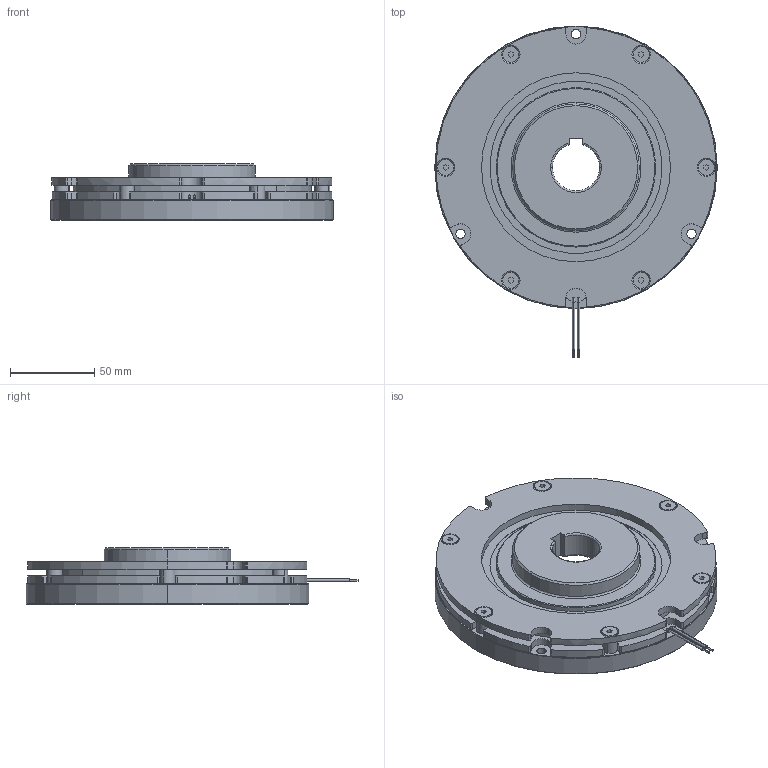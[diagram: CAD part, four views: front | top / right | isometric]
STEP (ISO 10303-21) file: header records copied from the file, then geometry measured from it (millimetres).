
FILE_DESCRIPTION (( 'STEP AP214' ), '1' );
FILE_NAME ('ÌÞÚ°·_BXR-14-20_B.STEP', '2017-08-08T10:29:00', ( 'MIKI' ), ( '' ), 'SwSTEP 2.0', 'SolidWorks 2012', '' );
FILE_SCHEMA (( 'AUTOMOTIVE_DESIGN' ));
Length unit declared in the file: millimetre
Products named in the file (1): 枌痚愷BXR-14-20_B
Bounding box: 167.5 x 196.75 x 33.2 mm (x, y, z)
Volume: 432674 mm3; surface area: 127677.7 mm2
Topology: 1 solids, 7 shells, 430 faces, 1022 edges, 648 vertices
Faces by surface type: cylinder 210, plane 123, cone 83, torus 14
Entity records: 17396 total; most frequent: DIRECTION 2402, CARTESIAN_POINT 2139, ORIENTED_EDGE 2044, EDGE_CURVE 1022, AXIS2_PLACEMENT_3D 955, VERTEX_POINT 648, CIRCLE 524, EDGE_LOOP 516
